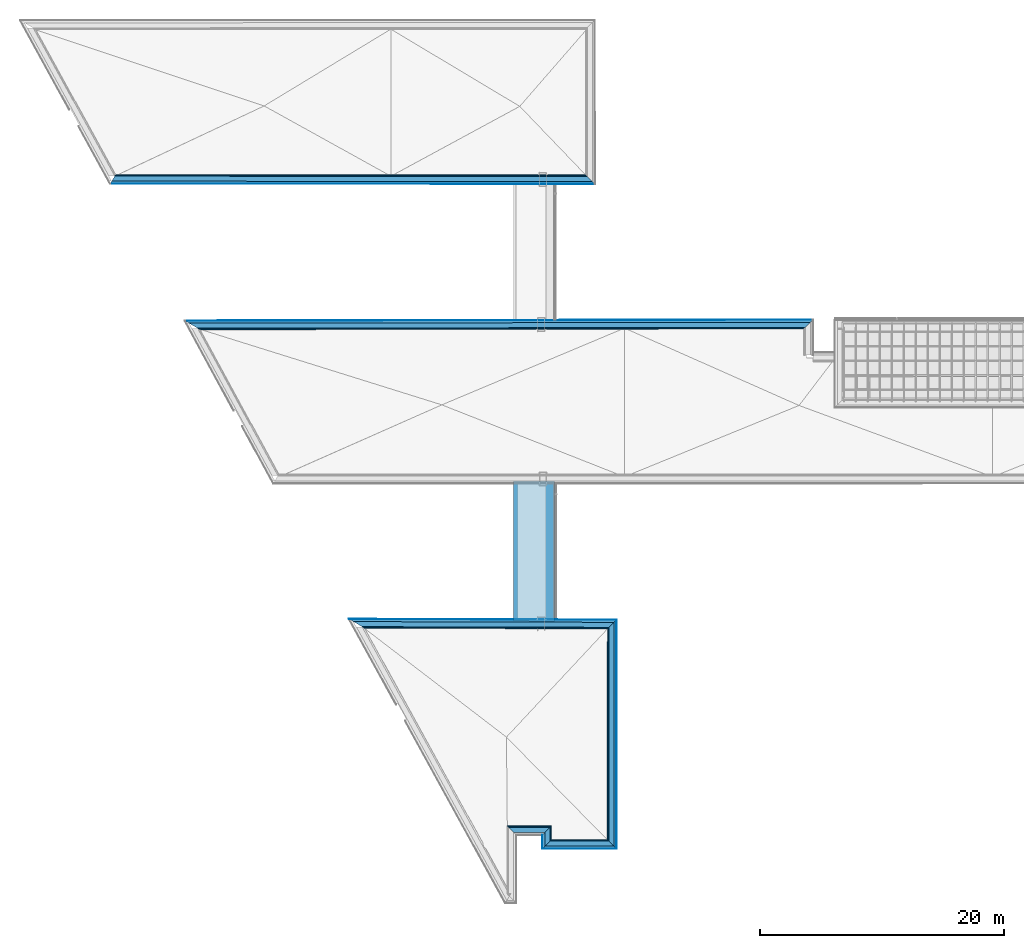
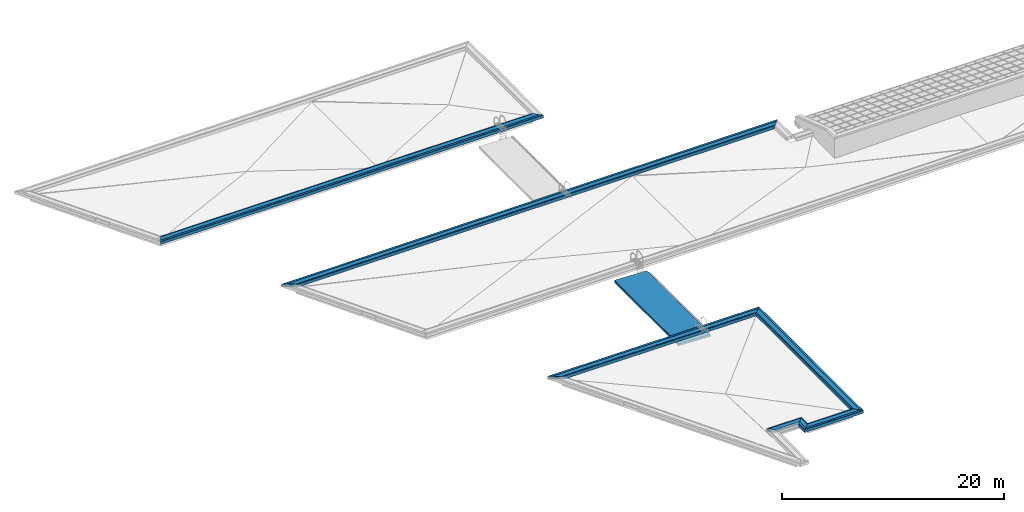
# One storey, part 16 of 47: 28 building element parts, 8 elements without a shape of their own.
"""IFC2X3 building model written with IfcOpenShell, lengths in millimetres."""

from ifc_helpers import new_model, entity, si_unit, converted_unit, derived_unit, money_unit, direction, frame, origin_with_axes, place, context, subcontext, project, spatial, polyline, outline, extrude, material, type_object, element, aggregate, save


model = new_model("IFC2X3")

# Units and contexts
model_context = context("Model", 3, precision=1e-05, world=origin_with_axes(), true_north=direction((0.0, 1.0)))
body_context = subcontext(model_context, "Body", "Model", "MODEL_VIEW")
ifc_project = project(units=[si_unit("LENGTHUNIT", "METRE", prefix="MILLI"), si_unit("AREAUNIT", "SQUARE_METRE"), si_unit("VOLUMEUNIT", "CUBIC_METRE"), converted_unit("PLANEANGLEUNIT", "DEGREE", entity("IfcPlaneAngleMeasure", 0.0174532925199), si_unit("PLANEANGLEUNIT", "RADIAN"), dimensions=[0, 0, 0, 0, 0, 0, 0]), si_unit("SOLIDANGLEUNIT", "STERADIAN"), money_unit("EUR"), converted_unit("TIMEUNIT", "Year", entity("IfcTimeMeasure", 31556926.0), si_unit("TIMEUNIT", "SECOND"), dimensions=[0, 0, 1, 0, 0, 0, 0]), si_unit("MASSUNIT", "GRAM", prefix="KILO"), si_unit("THERMODYNAMICTEMPERATUREUNIT", "DEGREE_CELSIUS"), si_unit("LUMINOUSINTENSITYUNIT", "LUMEN"), si_unit("ENERGYUNIT", "JOULE", prefix="MEGA"), derived_unit("THERMALCONDUCTANCEUNIT", [(si_unit("POWERUNIT", "WATT"), 1), (si_unit("LENGTHUNIT", "METRE"), -1), (si_unit("THERMODYNAMICTEMPERATUREUNIT", "KELVIN"), -1)]), derived_unit("SPECIFICHEATCAPACITYUNIT", [(si_unit("ENERGYUNIT", "JOULE"), 1), (si_unit("MASSUNIT", "GRAM", prefix="KILO"), -1), (si_unit("THERMODYNAMICTEMPERATUREUNIT", "KELVIN"), -1)]), derived_unit("MASSDENSITYUNIT", [(si_unit("MASSUNIT", "GRAM", prefix="KILO"), 1), (si_unit("VOLUMEUNIT", "CUBIC_METRE"), -1)])], contexts=[model_context])

# Site, building, storey
site_placement = place(None, origin_with_axes())
site = spatial("IfcSite", under=ifc_project, at=site_placement, Name="Site", CompositionType="ELEMENT")
building_placement = place(site_placement, origin_with_axes())
building = spatial("IfcBuilding", under=site, at=building_placement, Name="Building", CompositionType="ELEMENT")
storey_placement = place(building_placement, frame((0.0, 0.0, 6000.0), z_axis=(0.0, 0.0, 1.0), x_axis=(1.0, 0.0, 0.0)))
storey = spatial("IfcBuildingStorey", under=building, at=storey_placement, Name="KATUSEPLAAN", CompositionType="ELEMENT", Elevation=6000.0)

# Roof, building element parts
roof_placement = place(storey_placement, frame((40513.0870357, 34351.6013729, -117.425982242), z_axis=(0.0, 0.0, 1.0), x_axis=(-6.29783246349e-05, -0.999999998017, 0.0)))
roof = element("IfcRoof", 1, at=roof_placement, inside=storey, Name="K2", ShapeType="NOTDEFINED")
ifc_material_1 = material(Name="Soojustus - Plastik Kõva")
building_element_part_1_placement = place(roof_placement, origin_with_axes())
building_element_part_1 = element("IfcBuildingElementPart", 2, at=building_element_part_1_placement, material=ifc_material_1, Name="Soojustus - Plastik Kõva", context=body_context, shape_type="SweptSolid", body=[
    extrude(outline(polyline([(0.0, -8.73019237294), (0.554548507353, -3351.88564429), (340.511418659, -3356.34849922), (11510.0543181, -3356.05385), (11519.10614, -8.73019237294), (0.0, -8.73019237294)])), frame((0.0, 0.0, 0.0), z_axis=(0.0, 0.0348994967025, 0.999390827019), x_axis=(1.0, 0.0, 0.0)), (0.0, 0.0, 1.0), 220.0),
])
ifc_material_2 = material(Name="Soojustus - Mineraal Pehme")
building_element_part_2_placement = place(roof_placement, origin_with_axes())
building_element_part_2 = element("IfcBuildingElementPart", 3, at=building_element_part_2_placement, material=ifc_material_2, Name="Soojustus - Mineraal Pehme", context=body_context, shape_type="SweptSolid", body=[
    extrude(outline(polyline([(0.0, -8.73019237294), (0.554548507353, -3351.88564429), (340.511418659, -3356.34849922), (11510.0543181, -3356.05385), (11519.10614, -8.73019237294), (0.0, -8.73019237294)])), frame((0.0, 7.67788927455, 219.865981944), z_axis=(0.0, 0.0348994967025, 0.999390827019), x_axis=(1.0, 0.0, 0.0)), (0.0, 0.0, 1.0), 30.0),
])
aggregate(roof, [building_element_part_1, building_element_part_2])

# Wall, building element parts
wall_type = type_object("IfcWallType", Name="VS-4 parapett", PredefinedType="NOTDEFINED")
wall_1_placement = place(storey_placement, frame((43624.0754875, 58909.1816374, 980.0), z_axis=(0.0, 0.0, 1.0), x_axis=(-0.999999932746, 0.000366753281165, 0.0)))
wall_1 = element("IfcWall", 4, at=wall_1_placement, inside=storey, type_object=wall_type, Name="VS4 parapett")
building_element_part_3_placement = place(wall_1_placement, origin_with_axes())
building_element_part_3 = element("IfcBuildingElementPart", 5, at=building_element_part_3_placement, material=ifc_material_1, Name="Soojustus - Plastik Kõva", context=body_context, shape_type="SweptSolid", body=[
    extrude(outline(polyline([(530.295546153, -530.000000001), (39095.2524473, -530.000000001), (39154.3237358, -430.0), (430.239782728, -430.0), (530.295546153, -530.000000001)])), origin_with_axes(), (0.0, 0.0, 1.0), 320.0),
])
ifc_material_3 = material(Name="Kivi - Ol.Olev Konstruktsioon")
building_element_part_4_placement = place(wall_1_placement, origin_with_axes())
building_element_part_4 = element("IfcBuildingElementPart", 6, at=building_element_part_4_placement, material=ifc_material_3, Name="Kivi - Ol.Olev Konstruktsioon", context=body_context, shape_type="SweptSolid", body=[
    extrude(outline(polyline([(430.239782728, -430.0), (39154.3237358, -430.0), (39408.3302762, 0.0), (0.0, 0.0), (430.239782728, -430.0)])), origin_with_axes(), (0.0, 0.0, 1.0), 320.0),
])
building_element_part_5_placement = place(wall_1_placement, origin_with_axes())
building_element_part_5 = element("IfcBuildingElementPart", 7, at=building_element_part_5_placement, material=ifc_material_1, Name="Soojustus - Plastik Kõva", context=body_context, shape_type="SweptSolid", body=[
    extrude(outline(polyline([(0.0, 0.0), (39408.3302762, 0.0), (39526.4728531, 200.0), (-200.11152685, 199.999999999), (0.0, 0.0)])), origin_with_axes(), (0.0, 0.0, 1.0), 320.0),
])
ifc_material_4 = material(Name="Tellis - Viimistlus")
building_element_part_6_placement = place(wall_1_placement, origin_with_axes())
building_element_part_6 = element("IfcBuildingElementPart", 8, at=building_element_part_6_placement, material=ifc_material_4, Name="Tellis - Viimistlus", context=body_context, shape_type="SweptSolid", body=[
    extrude(outline(polyline([(-200.11152685, 199.999999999), (39526.4728531, 200.0), (39538.2871108, 219.999999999), (-220.122679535, 219.999999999), (-200.11152685, 199.999999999)])), origin_with_axes(), (0.0, 0.0, 1.0), 320.0),
])
aggregate(wall_1, [building_element_part_3, building_element_part_4, building_element_part_5, building_element_part_6])

wall_2_placement = place(storey_placement, frame((10563.4106071, 47277.4137147, 980.0), z_axis=(0.0, 0.0, 1.0), x_axis=(0.999998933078, 0.00146076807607, 0.0)))
wall_2 = element("IfcWall", 9, at=wall_2_placement, inside=storey, type_object=wall_type, Name="VS4 parapett")
building_element_part_7_placement = place(wall_2_placement, origin_with_axes())
building_element_part_7 = element("IfcBuildingElementPart", 10, at=building_element_part_7_placement, material=ifc_material_1, Name="Soojustus - Plastik Kõva", context=body_context, shape_type="SweptSolid", body=[
    extrude(outline(polyline([(889.84770209, -530.000000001), (50408.0388107, -530.0), (50508.1849943, -430.0), (721.951909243, -430.0), (889.84770209, -530.000000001)])), origin_with_axes(), (0.0, 0.0, 1.0), 320.0),
])
building_element_part_8_placement = place(wall_2_placement, origin_with_axes())
building_element_part_8 = element("IfcBuildingElementPart", 11, at=building_element_part_8_placement, material=ifc_material_3, Name="Kivi - Ol.Olev Konstruktsioon", context=body_context, shape_type="SweptSolid", body=[
    extrude(outline(polyline([(721.951909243, -430.0), (50508.1849943, -430.0), (50938.8135841, 9.09494701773e-10), (3.41060513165e-10, 0.0), (721.951909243, -430.0)])), origin_with_axes(), (0.0, 0.0, 1.0), 320.0),
])
building_element_part_9_placement = place(wall_2_placement, origin_with_axes())
building_element_part_9 = element("IfcBuildingElementPart", 12, at=building_element_part_9_placement, material=ifc_material_1, Name="Soojustus - Plastik Kõva", context=body_context, shape_type="SweptSolid", body=[
    extrude(outline(polyline([(3.41060513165e-10, 0.0), (50938.8135841, 9.09494701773e-10), (51139.1059514, 200.000000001), (-335.791585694, 200.0), (3.41060513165e-10, 0.0)])), origin_with_axes(), (0.0, 0.0, 1.0), 320.0),
])
building_element_part_10_placement = place(wall_2_placement, origin_with_axes())
building_element_part_10 = element("IfcBuildingElementPart", 13, at=building_element_part_10_placement, material=ifc_material_4, Name="Tellis - Viimistlus", context=body_context, shape_type="SweptSolid", body=[
    extrude(outline(polyline([(-335.791585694, 200.0), (51139.1059514, 200.000000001), (51159.1351881, 220.0), (-369.370744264, 220.0), (-335.791585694, 200.0)])), origin_with_axes(), (0.0, 0.0, 1.0), 320.0),
])
aggregate(wall_2, [building_element_part_7, building_element_part_8, building_element_part_9, building_element_part_10])

wall_3_placement = place(storey_placement, frame((24039.9995096, 22808.1040573, 980.0), z_axis=(0.0, 0.0, 1.0), x_axis=(0.999996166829, -0.0027688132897, 0.0)))
wall_3 = element("IfcWall", 14, at=wall_3_placement, inside=storey, type_object=wall_type, Name="VS4 parapett")
building_element_part_11_placement = place(wall_3_placement, origin_with_axes())
building_element_part_11 = element("IfcBuildingElementPart", 15, at=building_element_part_11_placement, material=ifc_material_1, Name="Soojustus - Plastik Kõva", context=body_context, shape_type="SweptSolid", body=[
    extrude(outline(polyline([(899.214890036, -530.0), (20830.1440706, -530.0), (20929.9229881, -429.999999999), (729.551703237, -429.999999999), (899.214890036, -530.0)])), origin_with_axes(), (0.0, 0.0, 1.0), 320.0),
])
building_element_part_12_placement = place(wall_3_placement, origin_with_axes())
building_element_part_12 = element("IfcBuildingElementPart", 16, at=building_element_part_12_placement, material=ifc_material_3, Name="Kivi - Ol.Olev Konstruktsioon", context=body_context, shape_type="SweptSolid", body=[
    extrude(outline(polyline([(729.551703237, -429.999999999), (20929.9229881, -429.999999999), (21358.9723334, 9.09494701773e-10), (2.27373675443e-10, 0.0), (729.551703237, -429.999999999)])), origin_with_axes(), (0.0, 0.0, 1.0), 320.0),
])
building_element_part_13_placement = place(wall_3_placement, origin_with_axes())
building_element_part_13 = element("IfcBuildingElementPart", 17, at=building_element_part_13_placement, material=ifc_material_1, Name="Soojustus - Plastik Kõva", context=body_context, shape_type="SweptSolid", body=[
    extrude(outline(polyline([(2.27373675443e-10, 0.0), (21358.9723334, 9.09494701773e-10), (21558.5301684, 200.0), (-339.326373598, 200.000000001), (2.27373675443e-10, 0.0)])), origin_with_axes(), (0.0, 0.0, 1.0), 320.0),
])
building_element_part_14_placement = place(wall_3_placement, origin_with_axes())
building_element_part_14 = element("IfcBuildingElementPart", 18, at=building_element_part_14_placement, material=ifc_material_4, Name="Tellis - Viimistlus", context=body_context, shape_type="SweptSolid", body=[
    extrude(outline(polyline([(-339.326373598, 200.000000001), (21558.5301684, 200.0), (21578.4859519, 220.0), (-373.259010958, 220.000000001), (-339.326373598, 200.000000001)])), origin_with_axes(), (0.0, 0.0, 1.0), 320.0),
])
aggregate(wall_3, [building_element_part_11, building_element_part_12, building_element_part_13, building_element_part_14])

wall_4_placement = place(storey_placement, frame((45398.8899704, 22748.9650508, 980.0), z_axis=(0.0, 0.0, 1.0), x_axis=(-0.000555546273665, -0.999999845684, 0.0)))
wall_4 = element("IfcWall", 19, at=wall_4_placement, inside=storey, type_object=wall_type, Name="VS4 parapett")
building_element_part_15_placement = place(wall_4_placement, origin_with_axes())
building_element_part_15 = element("IfcBuildingElementPart", 20, at=building_element_part_15_placement, material=ifc_material_1, Name="Soojustus - Plastik Kõva", context=body_context, shape_type="SweptSolid", body=[
    extrude(outline(polyline([(528.82826283, -530.0), (17829.0093441, -530.0), (17929.0075786, -430.0), (429.049345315, -430.0), (528.82826283, -530.0)])), origin_with_axes(), (0.0, 0.0, 1.0), 320.0),
])
building_element_part_16_placement = place(wall_4_placement, origin_with_axes())
building_element_part_16 = element("IfcBuildingElementPart", 21, at=building_element_part_16_placement, material=ifc_material_3, Name="Kivi - Ol.Olev Konstruktsioon", context=body_context, shape_type="SweptSolid", body=[
    extrude(outline(polyline([(429.049345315, -430.0), (17929.0075786, -430.0), (18358.9999871, -1.13686837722e-10), (0.0, 0.0), (429.049345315, -430.0)])), origin_with_axes(), (0.0, 0.0, 1.0), 320.0),
])
building_element_part_17_placement = place(wall_4_placement, origin_with_axes())
building_element_part_17 = element("IfcBuildingElementPart", 22, at=building_element_part_17_placement, material=ifc_material_1, Name="Soojustus - Plastik Kõva", context=body_context, shape_type="SweptSolid", body=[
    extrude(outline(polyline([(0.0, 0.0), (18358.9999871, -1.13686837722e-10), (18558.9964562, 200.0), (-199.55783503, 200.0), (0.0, 0.0)])), origin_with_axes(), (0.0, 0.0, 1.0), 320.0),
])
building_element_part_18_placement = place(wall_4_placement, origin_with_axes())
building_element_part_18 = element("IfcBuildingElementPart", 23, at=building_element_part_18_placement, material=ifc_material_4, Name="Tellis - Viimistlus", context=body_context, shape_type="SweptSolid", body=[
    extrude(outline(polyline([(-199.55783503, 200.0), (18558.9964562, 200.0), (18578.9961031, 220.0), (-219.513618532, 220.0), (-199.55783503, 200.0)])), origin_with_axes(), (0.0, 0.0, 1.0), 320.0),
])
aggregate(wall_4, [building_element_part_15, building_element_part_16, building_element_part_17, building_element_part_18])

wall_5_placement = place(storey_placement, frame((45388.6906963, 4389.96789684, 980.0), z_axis=(0.0, 0.0, 1.0), x_axis=(-0.999999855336, 0.000537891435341, 0.0)))
wall_5 = element("IfcWall", 24, at=wall_5_placement, inside=storey, type_object=wall_type, Name="VS4 parapett")
building_element_part_19_placement = place(wall_5_placement, origin_with_axes())
building_element_part_19 = element("IfcBuildingElementPart", 25, at=building_element_part_19_placement, material=ifc_material_1, Name="Soojustus - Plastik Kõva", context=body_context, shape_type="SweptSolid", body=[
    extrude(outline(polyline([(529.990643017, -530.000000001), (5124.93661833, -530.0), (5224.88284365, -429.999999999), (429.992408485, -430.000000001), (529.990643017, -530.000000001)])), origin_with_axes(), (0.0, 0.0, 1.0), 320.0),
])
building_element_part_20_placement = place(wall_5_placement, origin_with_axes())
building_element_part_20 = element("IfcBuildingElementPart", 26, at=building_element_part_20_placement, material=ifc_material_3, Name="Kivi - Ol.Olev Konstruktsioon", context=body_context, shape_type="SweptSolid", body=[
    extrude(outline(polyline([(429.992408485, -430.000000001), (5224.88284365, -429.999999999), (5654.6516125, 0.0), (0.0, 0.0), (429.992408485, -430.000000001)])), origin_with_axes(), (0.0, 0.0, 1.0), 320.0),
])
building_element_part_21_placement = place(wall_5_placement, origin_with_axes())
building_element_part_21 = element("IfcBuildingElementPart", 27, at=building_element_part_21_placement, material=ifc_material_1, Name="Soojustus - Plastik Kõva", context=body_context, shape_type="SweptSolid", body=[
    extrude(outline(polyline([(0.0, 0.0), (5654.6516125, 0.0), (5854.54406313, 200.000000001), (-199.996469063, 200.000000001), (0.0, 0.0)])), origin_with_axes(), (0.0, 0.0, 1.0), 320.0),
])
building_element_part_22_placement = place(wall_5_placement, origin_with_axes())
building_element_part_22 = element("IfcBuildingElementPart", 28, at=building_element_part_22_placement, material=ifc_material_4, Name="Tellis - Viimistlus", context=body_context, shape_type="SweptSolid", body=[
    extrude(outline(polyline([(-199.996469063, 200.000000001), (5854.54406313, 200.000000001), (5874.53330819, 220.0), (-219.996115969, 220.0), (-199.996469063, 200.000000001)])), origin_with_axes(), (0.0, 0.0, 1.0), 320.0),
])
aggregate(wall_5, [building_element_part_19, building_element_part_20, building_element_part_21, building_element_part_22])

wall_6_placement = place(storey_placement, frame((39734.0399019, 4393.00948551, 980.0), z_axis=(0.0, 0.0, 1.0), x_axis=(0.0, 1.0, 0.0)))
wall_6 = element("IfcWall", 29, at=wall_6_placement, inside=storey, type_object=wall_type, Name="VS4 parapett")
building_element_part_23_placement = place(wall_6_placement, origin_with_axes())
building_element_part_23 = element("IfcBuildingElementPart", 30, at=building_element_part_23_placement, material=ifc_material_1, Name="Soojustus - Plastik Kõva", context=body_context, shape_type="SweptSolid", body=[
    extrude(outline(polyline([(529.714994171, -530.0), (1662.25236633, -530.0), (1562.3117845, -430.0), (429.768768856, -430.0), (529.714994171, -530.0)])), origin_with_axes(), (0.0, 0.0, 1.0), 320.0),
])
building_element_part_24_placement = place(wall_6_placement, origin_with_axes())
building_element_part_24 = element("IfcBuildingElementPart", 31, at=building_element_part_24_placement, material=ifc_material_3, Name="Kivi - Ol.Olev Konstruktsioon", context=body_context, shape_type="SweptSolid", body=[
    extrude(outline(polyline([(429.768768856, -430.0), (1562.3117845, -430.0), (1132.56728261, 0.0), (0.0, 0.0), (429.768768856, -430.0)])), origin_with_axes(), (0.0, 0.0, 1.0), 320.0),
])
building_element_part_25_placement = place(wall_6_placement, origin_with_axes())
building_element_part_25 = element("IfcBuildingElementPart", 32, at=building_element_part_25_placement, material=ifc_material_1, Name="Soojustus - Plastik Kõva", context=body_context, shape_type="SweptSolid", body=[
    extrude(outline(polyline([(0.0, 0.0), (1132.56728261, 0.0), (932.686118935, 200.0), (-199.892450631, 200.0), (0.0, 0.0)])), origin_with_axes(), (0.0, 0.0, 1.0), 320.0),
])
building_element_part_26_placement = place(wall_6_placement, origin_with_axes())
building_element_part_26 = element("IfcBuildingElementPart", 33, at=building_element_part_26_placement, material=ifc_material_4, Name="Tellis - Viimistlus", context=body_context, shape_type="SweptSolid", body=[
    extrude(outline(polyline([(-199.892450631, 200.0), (932.686118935, 200.0), (912.698002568, 220.0), (-219.881695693, 220.0), (-199.892450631, 200.0)])), origin_with_axes(), (0.0, 0.0, 1.0), 320.0),
])
aggregate(wall_6, [building_element_part_23, building_element_part_24, building_element_part_25, building_element_part_26])

wall_7_placement = place(storey_placement, frame((39734.0399019, 5525.57676812, 980.0), z_axis=(0.0, 0.0, 1.0), x_axis=(-0.999999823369, 0.000594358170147, 0.0)))
wall_7 = element("IfcWall", 34, at=wall_7_placement, inside=storey, type_object=wall_type, Name="VS4 parapett")
building_element_part_27_placement = place(wall_7_placement, origin_with_axes())
building_element_part_27 = element("IfcBuildingElementPart", 35, at=building_element_part_27_placement, material=ifc_material_1, Name="Soojustus - Plastik Kõva", context=body_context, shape_type="SweptSolid", body=[
    extrude(outline(polyline([(-529.685083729, -530.0), (3097.40875403, -529.999999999), (2997.34930054, -429.999999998), (-429.744501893, -429.999999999), (-529.685083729, -530.0)])), origin_with_axes(), (0.0, 0.0, 1.0), 320.0),
])
building_element_part_28_placement = place(wall_7_placement, origin_with_axes())
building_element_part_28 = element("IfcBuildingElementPart", 36, at=building_element_part_28_placement, material=ifc_material_3, Name="Kivi - Ol.Olev Konstruktsioon", context=body_context, shape_type="SweptSolid", body=[
    extrude(outline(polyline([(-429.744501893, -429.999999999), (2997.34930054, -429.999999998), (2567.09365053, 9.09494701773e-10), (0.0, 0.0), (-429.744501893, -429.999999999)])), origin_with_axes(), (0.0, 0.0, 1.0), 320.0),
])
aggregate(wall_7, [building_element_part_27, building_element_part_28])

save(model, "model.ifc")
